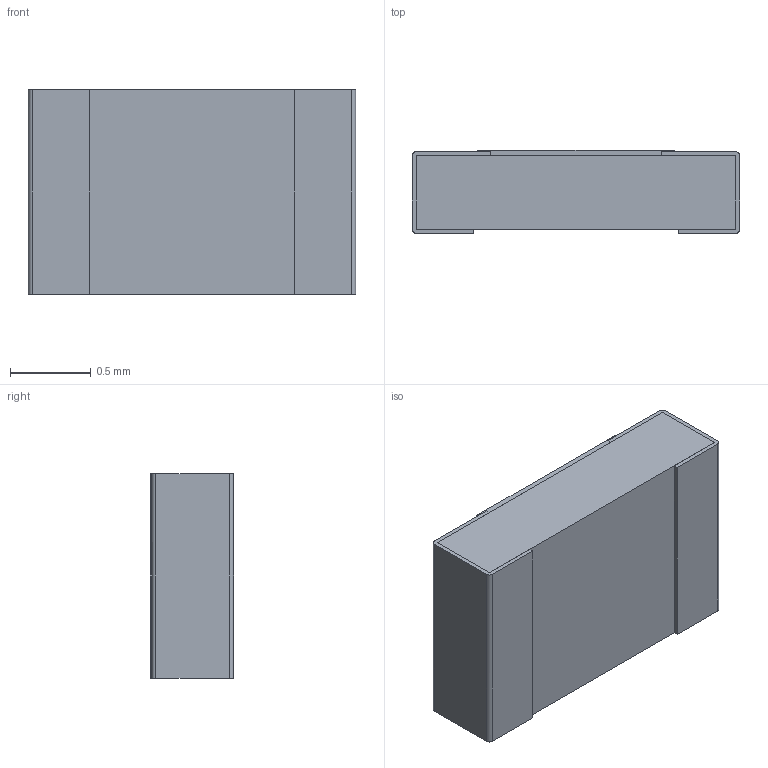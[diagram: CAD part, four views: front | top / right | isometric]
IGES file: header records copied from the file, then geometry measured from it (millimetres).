
Global section: file name: PTN0805; native system: Autodesk Inventor LT ; preprocessor: unknown; author: Neil; date: 20200108.145509; units: inch
Bounding box: 2.03 x 0.52 x 1.27 mm (x, y, z)
Volume: 1.3 mm3; surface area: 20.1 mm2
Topology: 5 solids, 5 shells, 98 faces, 264 edges, 176 vertices
Faces by surface type: bspline 98
